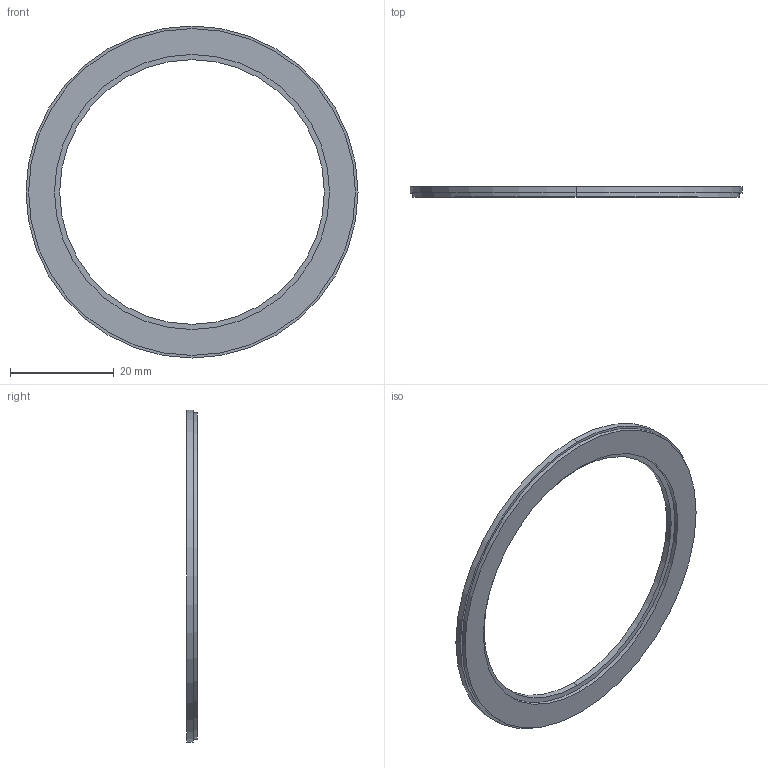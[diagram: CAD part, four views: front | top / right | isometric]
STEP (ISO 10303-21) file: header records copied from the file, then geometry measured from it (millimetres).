
FILE_DESCRIPTION (( 'STEP AP214' ), '1' );
FILE_NAME ('MRA064BG051DSN00D02_00.STEP', '2024-12-05T07:28:45', ( '' ), ( '' ), 'SwSTEP 2.0', 'SolidWorks 2022', '' );
FILE_SCHEMA (( 'AUTOMOTIVE_DESIGN' ));
Length unit declared in the file: millimetre
Products named in the file (3): MN01382-63_53_0.8_Elastoferit^MRA064BG051DSN00D02_00; MN02422D02_00; MRA064BG051DSN00D02_00
Assembly tree (2 placements, depth 2):
  MRA064BG051DSN00D02_00
    MN02422D02_00
    MN01382-63_53_0.8_Elastoferit^MRA064BG051DSN00D02_00
Bounding box: 64 x 2 x 64 mm (x, y, z)
Volume: 2137.2 mm3; surface area: 4899 mm2
Topology: 2 solids, 2 shells, 725 faces, 1986 edges, 1324 vertices
Faces by surface type: plane 525, bspline 187, cylinder 13
Entity records: 30750 total; most frequent: CARTESIAN_POINT 13475, ORIENTED_EDGE 3972, DIRECTION 2724, EDGE_CURVE 1986, VECTOR 1586, LINE 1586, VERTEX_POINT 1324, EDGE_LOOP 788
